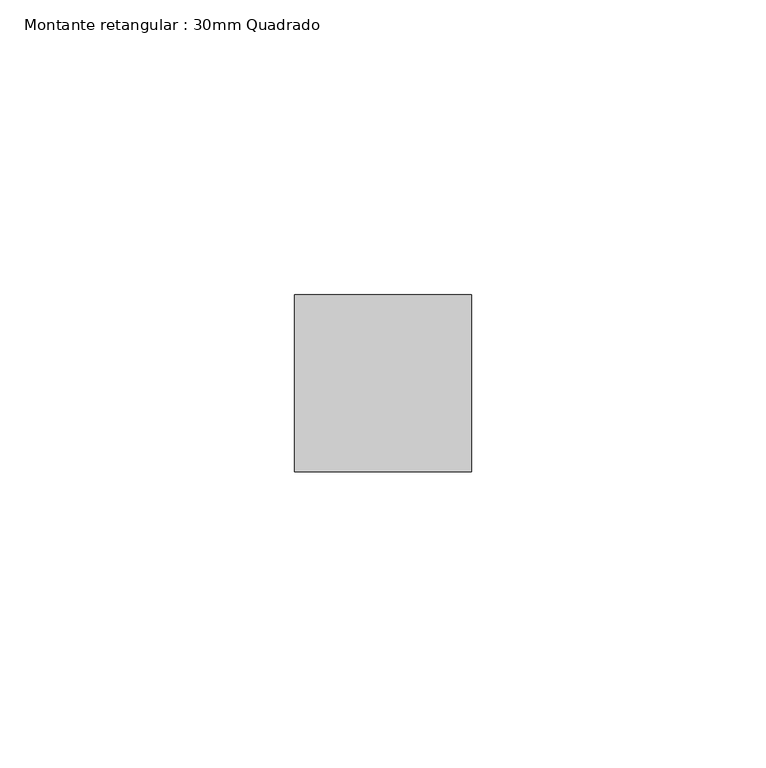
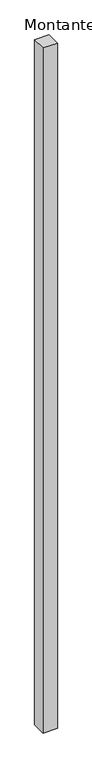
"""IFC4 building model written with IfcOpenShell, lengths in millimetres: member geometry, Montante retangular : 30mm Quadrado."""

from ifc_helpers import new_model, si_unit, frame, origin, place, context, project, spatial, polyline, outline, extrude, source, transform, mapped, element, save


def montante_retangular_30mm_quadrado_5dbde27b(model_context):
    return source(origin(), model_context, "Body", "SweptSolid", [
        extrude(outline(polyline([(0.0, 15.0), (0.0, -15.0), (-30.0, -15.0), (-30.0, 15.0), (0.0, 15.0)])), frame((0.0, 0.0, -1515.0000003), z_axis=(0.0, 0.0, 1.0), x_axis=(1.0, 0.0, 0.0)), (0.0, 0.0, 1.0), 1515.0000003),
    ])


if __name__ == "__main__":
    model = new_model("IFC4")
    model_context = context("Model", 3, world=origin())
    ifc_project = project(units=[si_unit("LENGTHUNIT", "METRE", prefix="MILLI")], contexts=[model_context])
    site = spatial("IfcSite", under=ifc_project)
    building = spatial("IfcBuilding", under=site)
    placement = place(None, origin())
    montante_retangular_30mm_quadrado_shape = montante_retangular_30mm_quadrado_5dbde27b(model_context)
    element("IfcMember", 1, ObjectType="Montante retangular : 30mm Quadrado", at=placement, inside=building, context=model_context, shape_type="MappedRepresentation", body=[
        mapped(montante_retangular_30mm_quadrado_shape, transform((0.0, 0.0, 0.0), x_axis=(1.0, 0.0, 0.0), y_axis=(0.0, 1.0, 0.0), z_axis=(0.0, 0.0, 1.0))),
    ])
    save(model, "model.ifc")
